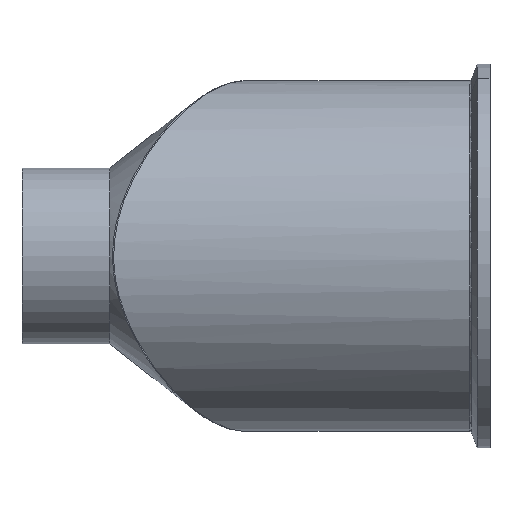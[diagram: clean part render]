
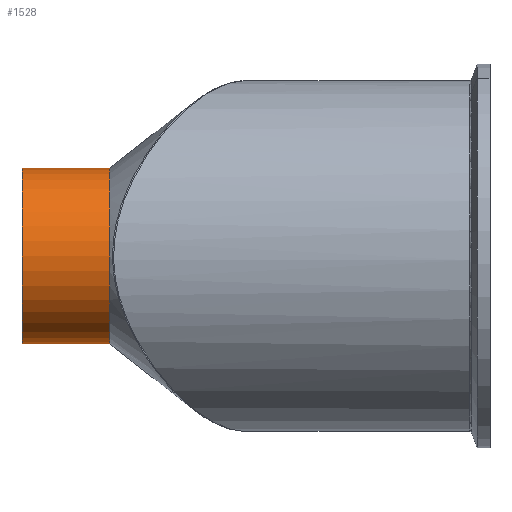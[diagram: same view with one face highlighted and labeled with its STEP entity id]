
A CAD part, front view. The second image highlights one B-rep face of the part: STEP entity #1528.
In plain terms, the highlighted cylindrical face has radius 38.1 mm (diameter 76.2 mm), a partial arc.
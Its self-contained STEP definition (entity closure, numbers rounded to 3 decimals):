
#12 = CARTESIAN_POINT ( 'NONE',  ( -146.05, -36.98, 38.1 ) ) ;
#20 = CARTESIAN_POINT ( 'NONE',  ( -119.389, -36.98, -38.1 ) ) ;
#235 = CARTESIAN_POINT ( 'NONE',  ( -146.05, -36.98, -38.1 ) ) ;
#344 = VERTEX_POINT ( 'NONE', #235 ) ;
#562 = LINE ( 'NONE', #2156, #1209 ) ;
#580 = AXIS2_PLACEMENT_3D ( 'NONE', #1816, #807, #1840 ) ;
#600 = CYLINDRICAL_SURFACE ( 'NONE', #1290, 38.1 ) ;
#611 = ORIENTED_EDGE ( 'NONE', *, *, #754, .T. ) ;
#658 = DIRECTION ( 'NONE',  ( 0., 0., -1. ) ) ;
#754 = EDGE_CURVE ( 'NONE', #1771, #2433, #1616, .T. ) ;
#807 = DIRECTION ( 'NONE',  ( 1., 0., 0. ) ) ;
#933 = DIRECTION ( 'NONE',  ( 1., 0., 0. ) ) ;
#944 = CARTESIAN_POINT ( 'NONE',  ( -119.389, -36.98, 0. ) ) ;
#951 = ORIENTED_EDGE ( 'NONE', *, *, #2880, .F. ) ;
#1084 = EDGE_CURVE ( 'NONE', #1477, #344, #2136, .T. ) ;
#1123 = DIRECTION ( 'NONE',  ( 1., 0., 0. ) ) ;
#1209 = VECTOR ( 'NONE', #1390, 1000. ) ;
#1290 = AXIS2_PLACEMENT_3D ( 'NONE', #944, #933, #658 ) ;
#1309 = DIRECTION ( 'NONE',  ( 0., 0., -1. ) ) ;
#1390 = DIRECTION ( 'NONE',  ( 1., 0., 0. ) ) ;
#1477 = VERTEX_POINT ( 'NONE', #12 ) ;
#1500 = DIRECTION ( 'NONE',  ( 1., 0., 0. ) ) ;
#1525 = ORIENTED_EDGE ( 'NONE', *, *, #1633, .T. ) ;
#1526 = ORIENTED_EDGE ( 'NONE', *, *, #1084, .F. ) ;
#1528 = ADVANCED_FACE ( 'NONE', ( #2855 ), #600, .T. ) ;
#1580 = CARTESIAN_POINT ( 'NONE',  ( -184.15, -36.98, 0. ) ) ;
#1616 = CIRCLE ( 'NONE', #2691, 38.1 ) ;
#1633 = EDGE_CURVE ( 'NONE', #2433, #344, #1762, .T. ) ;
#1762 = LINE ( 'NONE', #20, #2459 ) ;
#1771 = VERTEX_POINT ( 'NONE', #2822 ) ;
#1810 = EDGE_LOOP ( 'NONE', ( #951, #611, #1525, #1526 ) ) ;
#1816 = CARTESIAN_POINT ( 'NONE',  ( -146.05, -36.98, 0. ) ) ;
#1840 = DIRECTION ( 'NONE',  ( 0., 0., -1. ) ) ;
#2136 = CIRCLE ( 'NONE', #580, 38.1 ) ;
#2156 = CARTESIAN_POINT ( 'NONE',  ( -119.389, -36.98, 38.1 ) ) ;
#2281 = CARTESIAN_POINT ( 'NONE',  ( -184.15, -36.98, -38.1 ) ) ;
#2433 = VERTEX_POINT ( 'NONE', #2281 ) ;
#2459 = VECTOR ( 'NONE', #1500, 1000. ) ;
#2691 = AXIS2_PLACEMENT_3D ( 'NONE', #1580, #1123, #1309 ) ;
#2822 = CARTESIAN_POINT ( 'NONE',  ( -184.15, -36.98, 38.1 ) ) ;
#2855 = FACE_OUTER_BOUND ( 'NONE', #1810, .T. ) ;
#2880 = EDGE_CURVE ( 'NONE', #1771, #1477, #562, .T. ) ;
